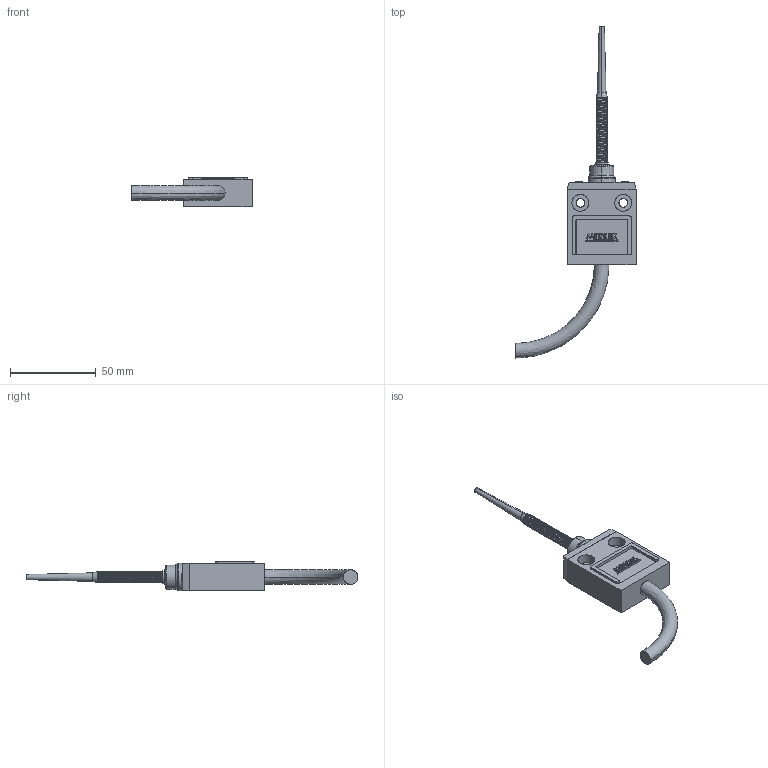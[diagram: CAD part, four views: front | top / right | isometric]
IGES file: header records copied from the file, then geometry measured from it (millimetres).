
Start section: SolidWorks IGES file using analytic representation for surfaces
Global section: file name: D:\X - Arquivos\PROEX\Empresas\P11 - METALTEX\01 - Produtos\IGES\6ª remessa\6ª etapa\IGES\TZ-3166.IGS; native system: SolidWorks 2012; preprocessor: SolidWorks 2012; author: Usuario; date: 190524.105248; units: millimetre
Bounding box: 70 x 193.35 x 17.3 mm (x, y, z)
Surface area: 13422.3 mm2 (no closed solid volume)
Topology: 0 solids, 0 shells, 234 faces, 2251 edges, 2250 vertices
Faces by surface type: bspline 194, revolution 40
